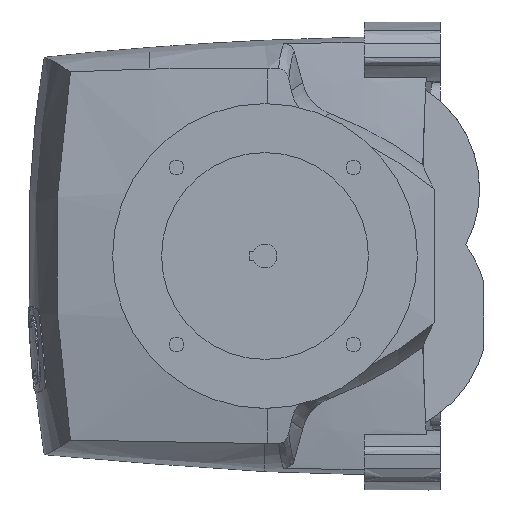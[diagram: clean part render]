
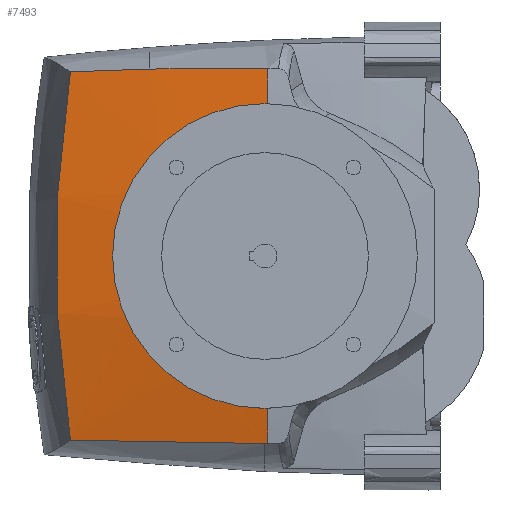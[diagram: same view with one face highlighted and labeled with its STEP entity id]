
A CAD part, left-side view. The second image highlights one B-rep face of the part: STEP entity #7493.
In plain terms, the highlighted free-form (B-spline) face has degree [3, 3] with [4, 4] control points.
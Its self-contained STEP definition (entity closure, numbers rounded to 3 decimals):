
#183=CARTESIAN_POINT('',(-81.224,150.562,-49.062));
#184=CARTESIAN_POINT('',(-81.628,152.471,-41.038));
#185=CARTESIAN_POINT('',(-82.255,155.35,-24.766));
#186=CARTESIAN_POINT('',(-82.561,156.8,0.));
#187=CARTESIAN_POINT('',(-82.255,155.35,24.766));
#188=CARTESIAN_POINT('',(-81.628,152.471,41.038));
#189=CARTESIAN_POINT('',(-81.224,150.562,49.062));
#208=CARTESIAN_POINT('',(-86.828,100.201,-54.354));
#210=CARTESIAN_POINT('',(-86.828,100.201,-54.354));
#211=CARTESIAN_POINT('',(-86.199,105.84,-54.455));
#212=CARTESIAN_POINT('',(-84.945,117.124,-54.196));
#213=CARTESIAN_POINT('',(-83.07,133.968,-52.427));
#214=CARTESIAN_POINT('',(-81.839,145.065,-50.333));
#215=CARTESIAN_POINT('',(-81.224,150.562,-49.062));
#217=CARTESIAN_POINT('',(-81.224,150.562,-49.062));
#263=CARTESIAN_POINT('',(-81.224,150.562,49.062));
#264=CARTESIAN_POINT('',(-81.839,145.065,50.333));
#265=CARTESIAN_POINT('',(-83.071,133.968,52.426));
#266=CARTESIAN_POINT('',(-84.947,117.123,54.196));
#267=CARTESIAN_POINT('',(-86.2,105.84,54.455));
#268=CARTESIAN_POINT('',(-86.828,100.2,54.353));
#291=CARTESIAN_POINT('',(-82.996,101.609,-86.102));
#292=CARTESIAN_POINT('',(-82.156,109.049,-86.197));
#293=CARTESIAN_POINT('',(-80.425,123.904,-86.278));
#294=CARTESIAN_POINT('',(-77.666,146.209,-86.066));
#295=CARTESIAN_POINT('',(-74.748,168.518,-85.512));
#296=CARTESIAN_POINT('',(-72.696,183.39,-84.91));
#297=CARTESIAN_POINT('',(-71.643,190.826,-84.551));
#299=CARTESIAN_POINT('',(-76.589,154.374,85.842));
#309=CARTESIAN_POINT('',(-76.589,154.374,85.842));
#310=CARTESIAN_POINT('',(-76.191,157.442,85.772));
#311=CARTESIAN_POINT('',(-75.39,163.557,85.612));
#312=CARTESIAN_POINT('',(-74.162,172.692,85.318));
#313=CARTESIAN_POINT('',(-72.915,181.784,84.968));
#314=CARTESIAN_POINT('',(-72.068,187.818,84.695));
#315=CARTESIAN_POINT('',(-71.642,190.828,84.55));
#407=CARTESIAN_POINT('',(-83.155,100.206,86.083));
#408=CARTESIAN_POINT('',(-82.477,106.235,86.166));
#409=CARTESIAN_POINT('',(-81.085,118.288,86.261));
#410=CARTESIAN_POINT('',(-78.898,136.345,86.179));
#411=CARTESIAN_POINT('',(-77.369,148.369,85.979));
#412=CARTESIAN_POINT('',(-76.589,154.374,85.842));
#545=CARTESIAN_POINT('',(-71.642,190.828,84.55));
#546=CARTESIAN_POINT('',(-72.461,191.819,77.769));
#547=CARTESIAN_POINT('',(-73.853,193.608,64.476));
#548=CARTESIAN_POINT('',(-75.297,195.616,45.464));
#549=CARTESIAN_POINT('',(-76.212,196.929,27.073));
#550=CARTESIAN_POINT('',(-76.664,197.51,9.145));
#551=CARTESIAN_POINT('',(-76.671,197.521,-8.615));
#552=CARTESIAN_POINT('',(-76.237,196.915,-26.572));
#553=CARTESIAN_POINT('',(-75.338,195.571,-45.037));
#554=CARTESIAN_POINT('',(-73.883,193.623,-64.202));
#555=CARTESIAN_POINT('',(-72.475,191.829,-77.668));
#556=CARTESIAN_POINT('',(-71.643,190.826,-84.551));
#835=CARTESIAN_POINT('',(-82.996,101.609,-86.102));
#844=CARTESIAN_POINT('',(-82.996,101.609,-86.102));
#845=CARTESIAN_POINT('',(-83.008,101.503,-86.1));
#846=CARTESIAN_POINT('',(-83.035,101.262,-86.097));
#847=CARTESIAN_POINT('',(-83.075,100.91,-86.093));
#848=CARTESIAN_POINT('',(-83.115,100.557,-86.088));
#849=CARTESIAN_POINT('',(-83.142,100.321,-86.085));
#850=CARTESIAN_POINT('',(-83.155,100.204,-86.083));
#934=CARTESIAN_POINT('',(521.61,100.205,0.));
#935=DIRECTION('',(0.,1.,0.));
#936=DIRECTION('',(-0.99,0.,-0.141));
#937=AXIS2_PLACEMENT_3D('',#934,#935,#936);
#939=CARTESIAN_POINT('',(521.61,100.206,0.));
#940=DIRECTION('',(0.,1.,0.));
#941=DIRECTION('',(-0.996,0.,0.089));
#942=AXIS2_PLACEMENT_3D('',#939,#940,#941);
#6013=VERTEX_POINT('',#217);
#6014=VERTEX_POINT('',#189);
#6018=VERTEX_POINT('',#208);
#6022=VERTEX_POINT('',#268);
#6023=CARTESIAN_POINT('',(-83.155,100.205,
-86.083));
#6024=VERTEX_POINT('',#6023);
#6025=VERTEX_POINT('',#545);
#6026=VERTEX_POINT('',#556);
#6027=CARTESIAN_POINT('',(-83.155,100.206,86.082));
#6028=VERTEX_POINT('',#6027);
#6951=VERTEX_POINT('',#835);
#6955=VERTEX_POINT('',#299);
#7457=CARTESIAN_POINT('',(-82.76,98.248,
-90.265));
#7458=CARTESIAN_POINT('',(-79.127,132.072,
-89.722));
#7459=CARTESIAN_POINT('',(-74.804,165.814,
-89.077));
#7460=CARTESIAN_POINT('',(-69.794,199.457,
-88.328));
#7461=CARTESIAN_POINT('',(-91.715,98.248,
-30.31));
#7462=CARTESIAN_POINT('',(-88.028,132.072,
-30.128));
#7463=CARTESIAN_POINT('',(-83.641,165.814,
-29.911));
#7464=CARTESIAN_POINT('',(-78.556,199.457,
-29.66));
#7465=CARTESIAN_POINT('',(-91.715,98.248,30.31));
#7466=CARTESIAN_POINT('',(-88.028,132.072,30.128));
#7467=CARTESIAN_POINT('',(-83.641,165.814,29.911));
#7468=CARTESIAN_POINT('',(-78.556,199.457,29.66));
#7469=CARTESIAN_POINT('',(-82.76,98.248,90.265));
#7470=CARTESIAN_POINT('',(-79.127,132.072,89.722));
#7471=CARTESIAN_POINT('',(-74.804,165.814,89.077));
#7472=CARTESIAN_POINT('',(-69.794,199.457,88.328));
#7473=(BOUNDED_SURFACE()B_SPLINE_SURFACE(3,3,((#7457,#7458,#7459,#7460),(#7461,
#7462,#7463,#7464),(#7465,#7466,#7467,#7468),(#7469,#7470,#7471,#7472)),
.UNSPECIFIED.,.F.,.F.,.F.)B_SPLINE_SURFACE_WITH_KNOTS((4,4),(4,4),(0.,1.),(
0.,1.),.UNSPECIFIED.)GEOMETRIC_REPRESENTATION_ITEM()RATIONAL_B_SPLINE_SURFACE(((1.006,1.005,1.005,1.006),(
0.998,0.998,0.998,0.998),(
0.998,0.998,0.998,0.998),(
1.006,1.005,1.005,1.006)))REPRESENTATION_ITEM('')SURFACE());
#7475=ORIENTED_EDGE('',*,*,#7474,.F.);
#7477=ORIENTED_EDGE('',*,*,#7476,.F.);
#7479=ORIENTED_EDGE('',*,*,#7478,.F.);
#7480=ORIENTED_EDGE('',*,*,#7437,.F.);
#7481=ORIENTED_EDGE('',*,*,#7364,.F.);
#7482=ORIENTED_EDGE('',*,*,#7382,.F.);
#7484=ORIENTED_EDGE('',*,*,#7483,.F.);
#7486=ORIENTED_EDGE('',*,*,#7485,.F.);
#7488=ORIENTED_EDGE('',*,*,#7487,.T.);
#7490=ORIENTED_EDGE('',*,*,#7489,.F.);
#7491=EDGE_LOOP('',(#7475,#7477,#7479,#7480,#7481,#7482,#7484,#7486,#7488,
#7490));
#7492=FACE_OUTER_BOUND('',#7491,.F.);
#7493=ADVANCED_FACE('',(#7492),#7473,.T.);
#190=B_SPLINE_CURVE_WITH_KNOTS('',3,(#183,#184,#185,#186,#187,#188,#189),
.UNSPECIFIED.,.F.,.F.,(4,1,1,1,4),(0.,0.25,0.5,0.75,1.),
.UNSPECIFIED.);
#216=B_SPLINE_CURVE_WITH_KNOTS('',3,(#210,#211,#212,#213,#214,#215),
.UNSPECIFIED.,.F.,.F.,(4,1,1,4),(0.,0.333,0.667,1.),
.UNSPECIFIED.);
#269=B_SPLINE_CURVE_WITH_KNOTS('',3,(#263,#264,#265,#266,#267,#268),
.UNSPECIFIED.,.F.,.F.,(4,1,1,4),(0.,0.333,0.667,1.),
.UNSPECIFIED.);
#298=B_SPLINE_CURVE_WITH_KNOTS('',3,(#291,#292,#293,#294,#295,#296,#297),
.UNSPECIFIED.,.F.,.F.,(4,1,1,1,4),(0.,0.25,0.5,0.75,1.),
.UNSPECIFIED.);
#316=B_SPLINE_CURVE_WITH_KNOTS('',3,(#309,#310,#311,#312,#313,#314,#315),
.UNSPECIFIED.,.F.,.F.,(4,1,1,1,4),(0.,0.25,0.5,0.75,1.),
.UNSPECIFIED.);
#413=B_SPLINE_CURVE_WITH_KNOTS('',3,(#407,#408,#409,#410,#411,#412),
.UNSPECIFIED.,.F.,.F.,(4,1,1,4),(0.,0.333,0.667,1.),
.UNSPECIFIED.);
#557=B_SPLINE_CURVE_WITH_KNOTS('',3,(#545,#546,#547,#548,#549,#550,#551,#552,
#553,#554,#555,#556),.UNSPECIFIED.,.F.,.F.,(4,1,1,1,1,1,1,1,1,4),(0.,
0.111,0.222,0.333,0.444,
0.556,0.667,0.778,0.889,1.),
.UNSPECIFIED.);
#851=B_SPLINE_CURVE_WITH_KNOTS('',3,(#844,#845,#846,#847,#848,#849,#850),
.UNSPECIFIED.,.F.,.F.,(4,1,1,1,4),(0.,0.25,0.5,0.75,1.),
.UNSPECIFIED.);
#938=CIRCLE('',#937,610.861);
#943=CIRCLE('',#942,610.861);
#7364=EDGE_CURVE('',#6013,#6014,#190,.T.);
#7382=EDGE_CURVE('',#6018,#6013,#216,.T.);
#7437=EDGE_CURVE('',#6014,#6022,#269,.T.);
#7474=EDGE_CURVE('',#6955,#6025,#316,.T.);
#7476=EDGE_CURVE('',#6028,#6955,#413,.T.);
#7478=EDGE_CURVE('',#6022,#6028,#943,.T.);
#7483=EDGE_CURVE('',#6024,#6018,#938,.T.);
#7485=EDGE_CURVE('',#6951,#6024,#851,.T.);
#7487=EDGE_CURVE('',#6951,#6026,#298,.T.);
#7489=EDGE_CURVE('',#6025,#6026,#557,.T.);
